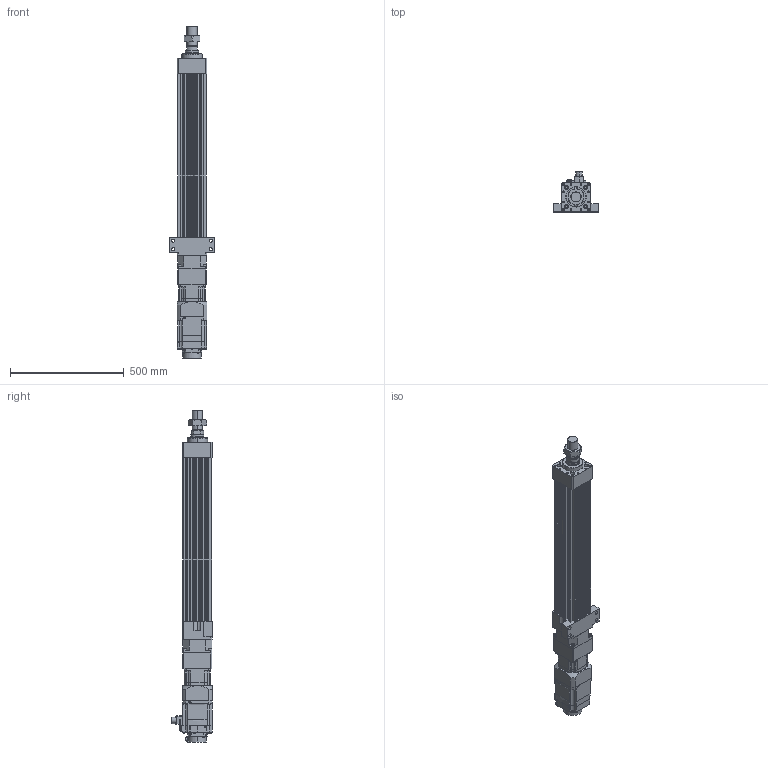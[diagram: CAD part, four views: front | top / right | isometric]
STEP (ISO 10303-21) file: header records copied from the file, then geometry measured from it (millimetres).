
FILE_DESCRIPTION (( 'STEP AP203' ), '1' );
FILE_NAME ('HES130NS(FS)(HS)-S500-W015G00-M-FFC.STEP', '2026-06-10T06:35:20', ( 'tms' ), ( '' ), 'SwSTEP 2.0', 'SolidWorks 2013', '' );
FILE_SCHEMA (( 'CONFIG_CONTROL_DESIGN' ));
Length unit declared in the file: millimetre
Products named in the file (8): HES130-FFC-500; AB1151; HES130-S-G120; AB1152; HES130-M-ROD-500; HES130NS(FS)(HS)-S500-W015G00-M-FFC; HG-SR152B; M45X1.5P
Assembly tree (7 placements, depth 2):
  HES130NS(FS)(HS)-S500-W015G00-M-FFC
    HES130-FFC-500
    HES130-M-ROD-500
    M45X1.5P
    HES130-S-G120
    AB1151
    AB1152
    HG-SR152B
Bounding box: 200 x 177.49 x 1462 mm (x, y, z)
Volume: 11681826.7 mm3; surface area: 1501690.6 mm2
Topology: 5 solids, 12 shells, 1284 faces, 3254 edges, 2103 vertices
Faces by surface type: cylinder 588, plane 584, cone 98, bspline 10, torus 4
Entity records: 40475 total; most frequent: CARTESIAN_POINT 7740, DIRECTION 7007, ORIENTED_EDGE 6432, EDGE_CURVE 3226, AXIS2_PLACEMENT_3D 2591, VERTEX_POINT 2103, LINE 1825, VECTOR 1825
